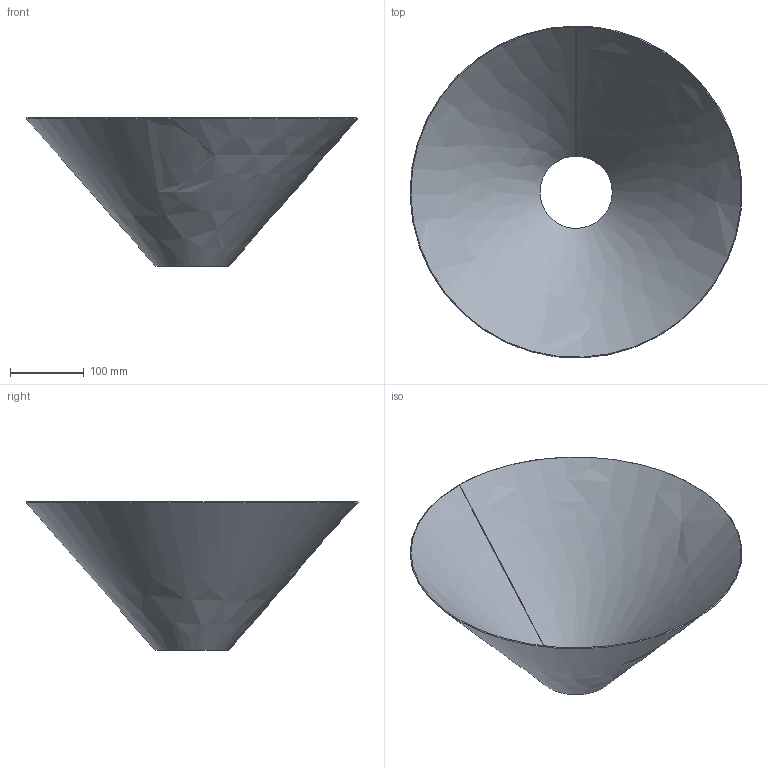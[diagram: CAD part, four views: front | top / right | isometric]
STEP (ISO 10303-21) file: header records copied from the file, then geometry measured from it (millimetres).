
FILE_DESCRIPTION (( 'STEP AP203' ), '1' );
FILE_NAME ('tronc de cone Rep.1.STEP', '2016-02-10T11:03:31', ( '' ), ( '' ), 'SwSTEP 2.0', 'SolidWorks 2014', '' );
FILE_SCHEMA (( 'CONFIG_CONTROL_DESIGN' ));
Length unit declared in the file: millimetre
Products named in the file (1): tronc de cone Rep.1
Bounding box: 449.6 x 449.84 x 200.99 mm (x, y, z)
Volume: 342840.9 mm3; surface area: 460416.6 mm2
Topology: 1 solids, 1 shells, 6 faces, 12 edges, 8 vertices
Faces by surface type: bspline 6
Entity records: 1211 total; most frequent: CARTESIAN_POINT 1047, ORIENTED_EDGE 24, B_SPLINE_CURVE_WITH_KNOTS 12, EDGE_CURVE 12, VERTEX_POINT 8, PERSON_AND_ORGANIZATION 8, ADVANCED_FACE 6, FACE_OUTER_BOUND 6
